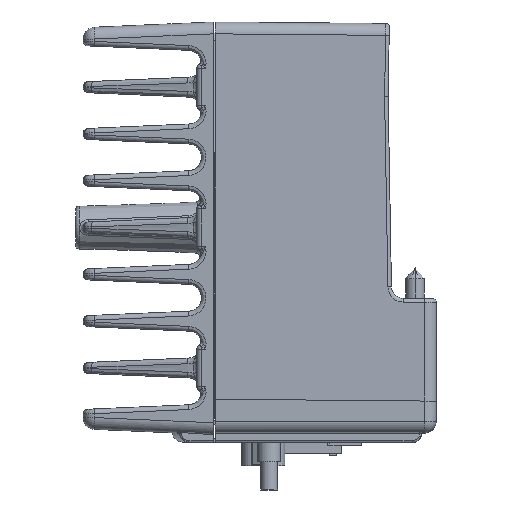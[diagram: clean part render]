
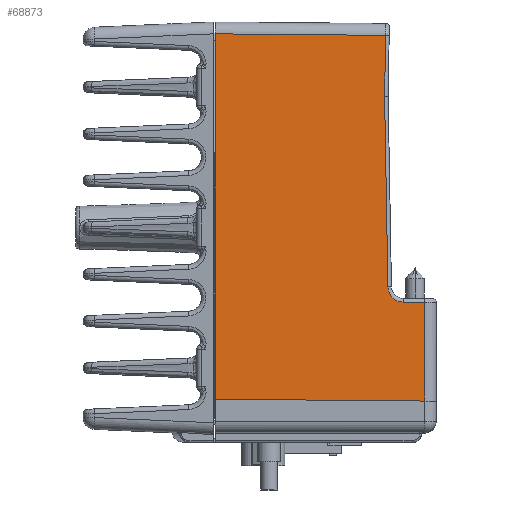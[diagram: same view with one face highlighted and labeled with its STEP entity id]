
A CAD part, left-side view. The second image highlights one B-rep face of the part: STEP entity #68873.
In plain terms, the highlighted planar face has unit normal (-1, -0.009, 0).
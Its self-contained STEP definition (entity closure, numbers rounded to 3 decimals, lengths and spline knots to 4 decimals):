
#16369=CARTESIAN_POINT('',(-1.7191,-0.3079,
-2.3657));
#16418=DIRECTION('',(0.,0.,1.));
#16419=VECTOR('',#16418,0.8334);
#16420=CARTESIAN_POINT('',(-1.7191,-0.3079,
-3.1991));
#16421=LINE('',#16420,#16419);
#16426=DIRECTION('',(0.009,-1.,-0.009));
#16427=VECTOR('',#16426,1.768);
#16428=CARTESIAN_POINT('',(-1.7345,1.46,-3.1837));
#16429=LINE('',#16428,#16427);
#16430=DIRECTION('',(0.,0.,1.));
#16431=VECTOR('',#16430,3.0837);
#16432=CARTESIAN_POINT('',(-1.7345,1.46,-3.1837));
#16433=LINE('',#16432,#16431);
#16434=DIRECTION('',(-0.009,1.,0.009));
#16435=VECTOR('',#16434,0.1807);
#16436=CARTESIAN_POINT('',(-1.7191,-0.3079,
-2.3657));
#16437=LINE('',#16436,#16435);
#16447=CARTESIAN_POINT('',(-1.7206,-0.1272,
-2.3641));
#16448=CARTESIAN_POINT('',(-1.7207,-0.1245,
-2.3641));
#16449=CARTESIAN_POINT('',(-1.7207,-0.1192,
-2.3639));
#16450=CARTESIAN_POINT('',(-1.7208,-0.1112,
-2.3631));
#16451=CARTESIAN_POINT('',(-1.7209,-0.1033,
-2.3618));
#16452=CARTESIAN_POINT('',(-1.7209,-0.0955,
-2.36));
#16453=CARTESIAN_POINT('',(-1.721,-0.0877,
-2.3577));
#16454=CARTESIAN_POINT('',(-1.7211,-0.0802,
-2.355));
#16455=CARTESIAN_POINT('',(-1.7211,-0.0728,
-2.3517));
#16456=CARTESIAN_POINT('',(-1.7212,-0.0656,
-2.3481));
#16457=CARTESIAN_POINT('',(-1.7212,-0.0587,
-2.344));
#16458=CARTESIAN_POINT('',(-1.7213,-0.0521,
-2.3395));
#16459=CARTESIAN_POINT('',(-1.7214,-0.0457,
-2.3346));
#16460=CARTESIAN_POINT('',(-1.7214,-0.0397,
-2.3293));
#16461=CARTESIAN_POINT('',(-1.7215,-0.0339,
-2.3236));
#16462=CARTESIAN_POINT('',(-1.7215,-0.0286,
-2.3176));
#16463=CARTESIAN_POINT('',(-1.7216,-0.0236,
-2.3113));
#16464=CARTESIAN_POINT('',(-1.7216,-0.0191,
-2.3047));
#16465=CARTESIAN_POINT('',(-1.7216,-0.0149,
-2.2978));
#16466=CARTESIAN_POINT('',(-1.7217,-0.0112,
-2.2907));
#16467=CARTESIAN_POINT('',(-1.7217,-0.0079,
-2.2833));
#16468=CARTESIAN_POINT('',(-1.7217,-0.0051,
-2.2758));
#16469=CARTESIAN_POINT('',(-1.7217,-0.0028,
-2.2681));
#16470=CARTESIAN_POINT('',(-1.7218,-0.0009,
-2.2603));
#16471=CARTESIAN_POINT('',(-1.7218,0.0005,
-2.2523));
#16472=CARTESIAN_POINT('',(-1.7218,0.0013,
-2.2444));
#16473=CARTESIAN_POINT('',(-1.7218,0.0016,
-2.239));
#16474=CARTESIAN_POINT('',(-1.7218,0.0017,
-2.2364));
#16517=DIRECTION('',(0.,0.017,1.));
#16518=VECTOR('',#16517,1.6096);
#16519=CARTESIAN_POINT('',(-1.7218,0.0017,
-2.2364));
#16520=LINE('',#16519,#16518);
#16674=DIRECTION('',(0.,-0.017,1.));
#16675=VECTOR('',#16674,0.5145);
#16676=CARTESIAN_POINT('',(-1.722,0.0297,-0.627));
#16677=LINE('',#16676,#16675);
#16750=DIRECTION('',(-0.009,1.,0.009));
#16751=VECTOR('',#16750,1.4393);
#16752=CARTESIAN_POINT('',(-1.7219,0.0208,
-0.1126));
#16753=LINE('',#16752,#16751);
#16754=CARTESIAN_POINT('',(-1.7345,1.46,-0.1));
#41353=VERTEX_POINT('',#16754);
#41381=CARTESIAN_POINT('',(-1.7345,1.46,-3.1837));
#41382=VERTEX_POINT('',#41381);
#41403=CARTESIAN_POINT('',(-1.7191,-0.3079,
-3.1991));
#41404=VERTEX_POINT('',#41403);
#41910=VERTEX_POINT('',#16369);
#41913=CARTESIAN_POINT('',(-1.7206,-0.1272,
-2.3641));
#41914=VERTEX_POINT('',#41913);
#41917=VERTEX_POINT('',#16474);
#41921=CARTESIAN_POINT('',(-1.722,0.0297,-0.627));
#41922=VERTEX_POINT('',#41921);
#41923=CARTESIAN_POINT('',(-1.7219,0.0208,
-0.1126));
#41924=VERTEX_POINT('',#41923);
#68853=CARTESIAN_POINT('',(-1.7345,1.46,0.0866));
#68854=DIRECTION('',(1.,0.009,0.));
#68855=DIRECTION('',(0.,0.,-1.));
#68856=AXIS2_PLACEMENT_3D('',#68853,#68854,#68855);
#68857=PLANE('',#68856);
#68859=ORIENTED_EDGE('',*,*,#68858,.F.);
#68860=ORIENTED_EDGE('',*,*,#68834,.F.);
#68861=ORIENTED_EDGE('',*,*,#68846,.F.);
#68862=ORIENTED_EDGE('',*,*,#63894,.T.);
#68864=ORIENTED_EDGE('',*,*,#68863,.F.);
#68866=ORIENTED_EDGE('',*,*,#68865,.F.);
#68868=ORIENTED_EDGE('',*,*,#68867,.F.);
#68870=ORIENTED_EDGE('',*,*,#68869,.F.);
#68871=EDGE_LOOP('',(#68859,#68860,#68861,#68862,#68864,#68866,#68868,#68870));
#68872=FACE_OUTER_BOUND('',#68871,.F.);
#68873=ADVANCED_FACE('',(#68872),#68857,.F.);
#16475=B_SPLINE_CURVE_WITH_KNOTS('',3,(#16447,#16448,#16449,#16450,#16451,
#16452,#16453,#16454,#16455,#16456,#16457,#16458,#16459,#16460,#16461,#16462,
#16463,#16464,#16465,#16466,#16467,#16468,#16469,#16470,#16471,#16472,#16473,
#16474),.UNSPECIFIED.,.F.,.F.,(4,1,1,1,1,1,1,1,1,1,1,1,1,1,1,1,1,1,1,1,1,1,1,1,
1,4),(0.,0.04,0.08,0.12,0.16,0.2,0.24,0.28,0.32,0.36,0.4,
0.44,0.48,0.52,0.56,0.6,0.64,0.68,0.72,0.76,0.8,0.84,
0.88,0.92,0.96,1.),.UNSPECIFIED.);
#63894=EDGE_CURVE('',#41382,#41353,#16433,.T.);
#68834=EDGE_CURVE('',#41404,#41910,#16421,.T.);
#68846=EDGE_CURVE('',#41382,#41404,#16429,.T.);
#68858=EDGE_CURVE('',#41910,#41914,#16437,.T.);
#68863=EDGE_CURVE('',#41924,#41353,#16753,.T.);
#68865=EDGE_CURVE('',#41922,#41924,#16677,.T.);
#68867=EDGE_CURVE('',#41917,#41922,#16520,.T.);
#68869=EDGE_CURVE('',#41914,#41917,#16475,.T.);
